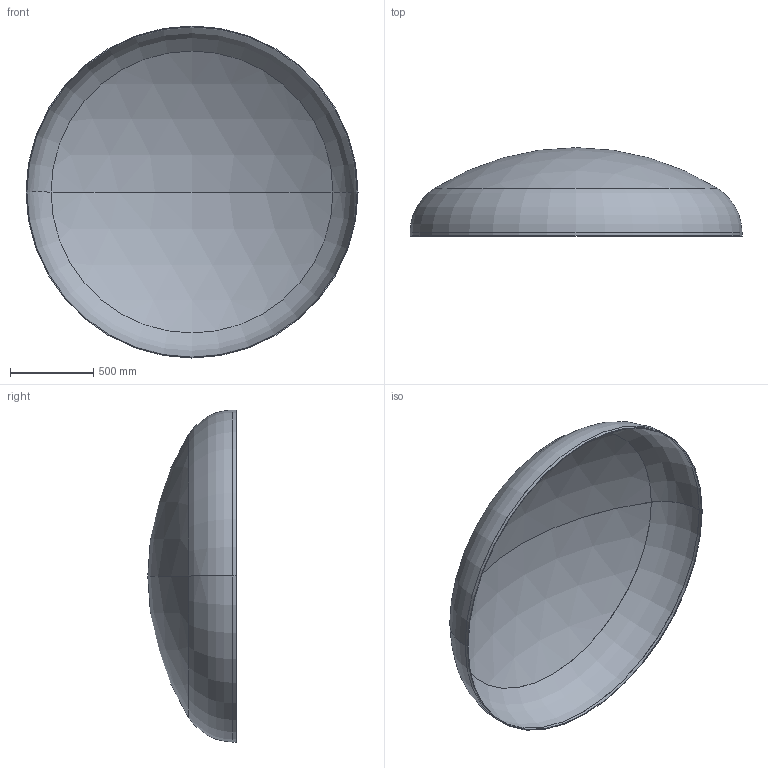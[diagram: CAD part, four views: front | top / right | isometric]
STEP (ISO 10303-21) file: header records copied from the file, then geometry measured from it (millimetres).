
FILE_DESCRIPTION (( 'STEP AP203' ), '1' );
FILE_NAME ('DIN 28013 Korbbogenform_-_Boden DIN 28013 - 2000 x 20 - I - s=5.step', '2016-07-01T13:32:52', ( '' ), ( '' ), 'SwSTEP 2.0', 'SolidWorks 2013', '' );
FILE_SCHEMA (( 'CONFIG_CONTROL_DESIGN' ));
Length unit declared in the file: millimetre
Products named in the file (1): DIN 28013 Korbbogenform_-_Boden DIN 28013 - 2000 x 20 - I - s=5
Bounding box: 2000 x 531.9 x 2000 mm (x, y, z)
Volume: 22339351.7 mm3; surface area: 8967126.8 mm2
Topology: 1 solids, 1 shells, 13 faces, 24 edges, 14 vertices
Faces by surface type: torus 4, cylinder 4, sphere 4, plane 1
Entity records: 407 total; most frequent: DIRECTION 72, CARTESIAN_POINT 52, ORIENTED_EDGE 48, AXIS2_PLACEMENT_3D 34, EDGE_CURVE 24, CIRCLE 20, EDGE_LOOP 14, VERTEX_POINT 14
